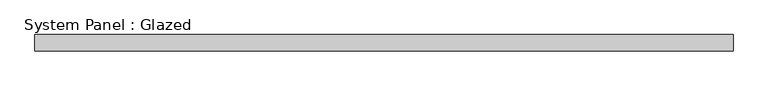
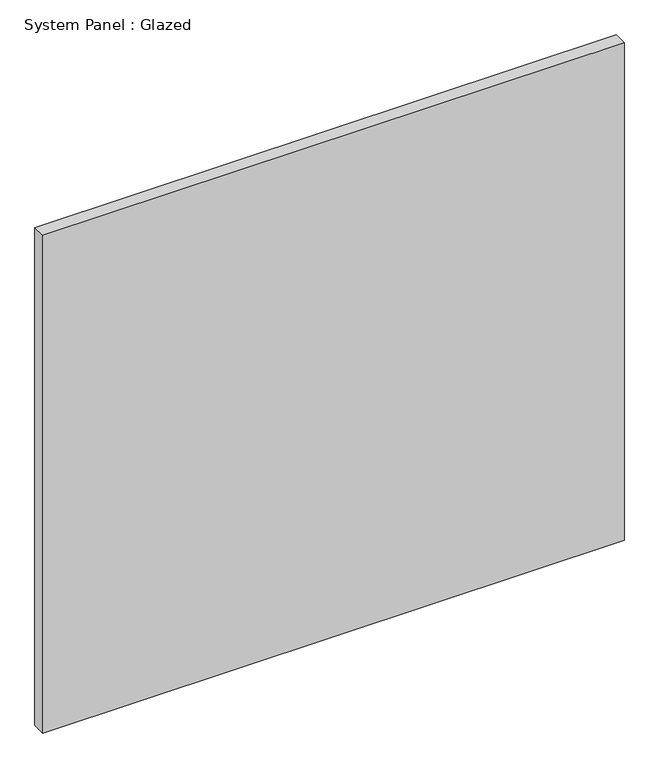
"""IFC4 building model written with IfcOpenShell, lengths in millimetres: plate geometry, System Panel : Glazed."""

from ifc_helpers import new_model, si_unit, origin, origin_with_axes, place, context, project, spatial, polyline, outline, extrude, source, transform, mapped, element, save


def system_panel_glazed_dbfd7fa9(model_context):
    return source(origin(), model_context, "Body", "SweptSolid", [
        extrude(outline(polyline([(541.655, -44.45), (-541.655, -44.45), (-541.655, -19.05), (541.655, -19.05), (541.655, -44.45)])), origin_with_axes(), (0.0, 0.0, 1.0), 979.9108166),
    ])


if __name__ == "__main__":
    model = new_model("IFC4")
    model_context = context("Model", 3, world=origin())
    ifc_project = project(units=[si_unit("LENGTHUNIT", "METRE", prefix="MILLI")], contexts=[model_context])
    site = spatial("IfcSite", under=ifc_project)
    building = spatial("IfcBuilding", under=site)
    placement = place(None, origin())
    system_panel_glazed_shape = system_panel_glazed_dbfd7fa9(model_context)
    element("IfcPlate", 1, ObjectType="System Panel : Glazed", at=placement, inside=building, context=model_context, shape_type="MappedRepresentation", body=[
        mapped(system_panel_glazed_shape, transform((0.0, 0.0, 0.0), x_axis=(1.0, 0.0, 0.0), y_axis=(0.0, 1.0, 0.0), z_axis=(0.0, 0.0, 1.0))),
    ])
    save(model, "model.ifc")
